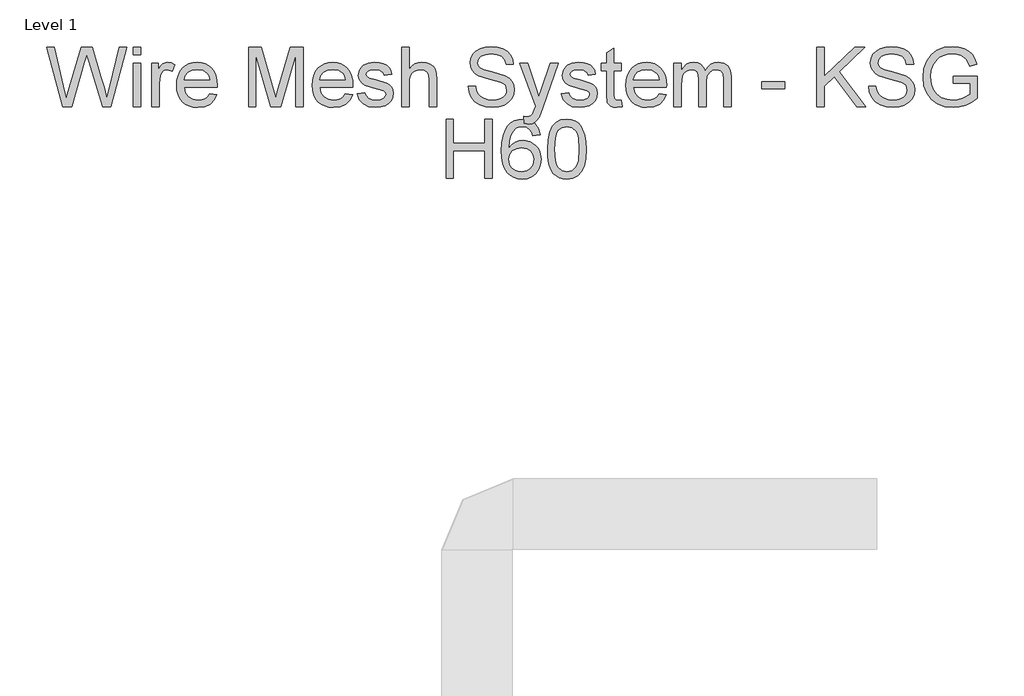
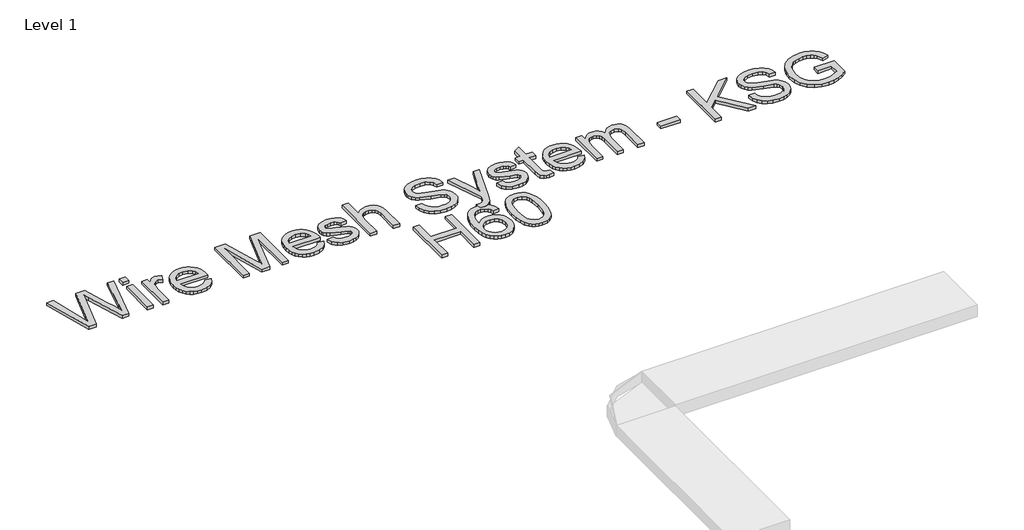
# One storey, part 23 of 32: 1 proxy.
"""IFC4 building model written with IfcOpenShell, lengths in millimetres."""

from ifc_helpers import new_model, si_unit, origin, origin_with_axes, place, context, project, spatial, polyline, outline, extrude, element, save

model = new_model("IFC4")

# Units and contexts
model_context = context("Model", 3, world=origin())
ifc_project = project(units=[si_unit("LENGTHUNIT", "METRE", prefix="MILLI")], contexts=[model_context])

# Site, building, storey
site = spatial("IfcSite", under=ifc_project)
building = spatial("IfcBuilding", under=site)
storey = spatial("IfcBuildingStorey", under=building, Name="Level 1", Elevation=0.0)

# Proxy
placement = place(None, origin())
element("IfcBuildingElementProxy", 1, Name="250mm Arial 3", ObjectType="250mm Arial 3", at=placement, inside=storey, context=model_context, shape_type="SweptSolid", body=[
    extrude(outline(polyline([(3806.4057877, 44003.1379564), (3737.9184229, 44254.2787318), (3770.2920385, 44254.2787318), (3810.0232939, 44089.2223433), (3822.2860271, 44038.2706869), (3835.4071516, 44083.3362313), (3885.1938483, 44254.2787318), (3931.853548, 44254.2787318), (3968.0286109, 44130.3638131), (3983.5256399, 44084.3785637), (3994.9453102, 44038.2706869), (4006.8401614, 44087.7508153), (4046.9392988, 44254.2787318), (4079.3129144, 44254.2787318), (4010.764236, 44003.1379564), (3977.2256608, 44003.1379564), (3917.0156409, 44196.8891405), (3908.6156686, 44223.9284672), (3899.1733641, 44191.3709106), (3844.2976332, 44003.1379564), (3806.4057877, 44003.1379564)])), origin_with_axes(), (0.0, 0.0, 1.0), 15.0),
    extrude(outline(polyline([(4106.7814367, 44222.8861348), (4106.7814367, 44254.2787318), (4138.1740336, 44254.2787318), (4138.1740336, 44222.8861348), (4106.7814367, 44222.8861348)])), origin_with_axes(), (0.0, 0.0, 1.0), 15.0),
    extrude(outline(polyline([(4106.7814367, 44003.1379564), (4106.7814367, 44187.5694633), (4138.1740336, 44187.5694633), (4138.1740336, 44003.1379564), (4106.7814367, 44003.1379564)])), origin_with_axes(), (0.0, 0.0, 1.0), 15.0),
    extrude(outline(polyline([(4185.262929, 44003.1379564), (4185.262929, 44187.5694633), (4212.7314513, 44187.5694633), (4212.7314513, 44160.284882), (4222.878863, 44176.1038078), (4232.2291971, 44185.423485), (4251.8495701, 44191.4935379), (4267.4845549, 44189.0716481), (4283.3647944, 44181.8059787), (4272.8801575, 44153.6630061), (4250.8072378, 44160.100941), (4241.4339112, 44158.5527709), (4233.0569316, 44153.9082608), (4221.7445602, 44136.7404343), (4216.6555259, 44100.0748621), (4216.6555259, 44003.1379564), (4185.262929, 44003.1379564)])), origin_with_axes(), (0.0, 0.0, 1.0), 15.0),
    extrude(outline(polyline([(4432.1117478, 44058.075001), (4462.891208, 44054.1509264), (4451.8010987, 44030.9590323), (4434.1044419, 44013.6225933), (4410.1997764, 44002.8160597), (4380.4856411, 43999.2138818), (4361.0070559, 44000.7678), (4343.6514564, 44005.4295547), (4328.4188425, 44013.1991458), (4315.3092143, 44024.0765733), (4304.7670959, 44037.759101), (4297.2370113, 44053.9439928), (4292.7189606, 44072.6312485), (4291.2129436, 44093.8208682), (4292.734289, 44115.7290074), (4297.298325, 44135.0389801), (4304.9050516, 44151.7507861), (4315.554469, 44165.8644256), (4328.6296082, 44177.0771622), (4343.5135006, 44185.0862598), (4360.2061461, 44189.8917184), (4378.7075448, 44191.4935379), (4396.6130513, 44189.8955505), (4412.8056072, 44185.1015883), (4427.2852127, 44177.1116512), (4440.0518675, 44165.9257393), (4450.4732747, 44151.8427566), (4457.9171369, 44135.1616074), (4462.3834543, 44115.8822916), (4463.8722267, 44094.0048092), (4463.6882857, 44085.5435233), (4322.6055406, 44085.5435233), (4328.0394642, 44062.0450609), (4340.6624152, 44044.7699355), (4358.8802381, 44034.1473429), (4381.0987778, 44030.6064787), (4397.8067517, 44032.2466193), (4411.8782381, 44037.1670409), (4423.3132367, 44045.6743121), (4432.1117478, 44058.075001)]), holes=[polyline([(4322.6055406, 44116.9361202), (4432.4796298, 44116.9361202), (4428.2336584, 44133.5214669), (4419.9103283, 44145.3856612), (4401.608199, 44156.4221211), (4378.5849175, 44160.100941), (4357.4240386, 44157.1655493), (4339.9266512, 44148.359374), (4327.7635527, 44134.632777), (4322.6055406, 44116.9361202)])]), origin_with_axes(), (0.0, 0.0, 1.0), 15.0),
    extrude(outline(polyline([(4597.2907636, 44003.1379564), (4597.2907636, 44254.2787318), (4651.3081032, 44254.2787318), (4702.6889552, 44077.2661784), (4713.0509648, 44040.2940379), (4724.2713656, 44080.3318617), (4774.7938263, 44254.2787318), (4828.8111659, 44254.2787318), (4828.8111659, 44003.1379564), (4797.418569, 44003.1379564), (4797.418569, 44222.8861348), (4734.3268068, 44003.1379564), (4691.7751227, 44003.1379564), (4628.6833605, 44222.8861348), (4628.6833605, 44003.1379564), (4597.2907636, 44003.1379564)])), origin_with_axes(), (0.0, 0.0, 1.0), 15.0),
    extrude(outline(polyline([(5008.9507162, 44058.075001), (5039.7301765, 44054.1509264), (5028.6400672, 44030.9590323), (5010.9434104, 44013.6225933), (4987.0387449, 44002.8160597), (4957.3246096, 43999.2138818), (4937.8460243, 44000.7678), (4920.4904248, 44005.4295547), (4905.2578109, 44013.1991458), (4892.1481828, 44024.0765733), (4881.6060643, 44037.759101), (4874.0759797, 44053.9439928), (4869.557929, 44072.6312485), (4868.0519121, 44093.8208682), (4869.5732574, 44115.7290074), (4874.1372934, 44135.0389801), (4881.7440201, 44151.7507861), (4892.3934374, 44165.8644256), (4905.4685767, 44177.0771622), (4920.3524691, 44185.0862598), (4937.0451146, 44189.8917184), (4955.5465133, 44191.4935379), (4973.4520197, 44189.8955505), (4989.6445757, 44185.1015883), (5004.1241811, 44177.1116512), (5016.890836, 44165.9257393), (5027.3122431, 44151.8427566), (5034.7561053, 44135.1616074), (5039.2224227, 44115.8822916), (5040.7111951, 44094.0048092), (5040.5272541, 44085.5435233), (4899.444509, 44085.5435233), (4904.8784326, 44062.0450609), (4917.5013836, 44044.7699355), (4935.7192066, 44034.1473429), (4957.9377462, 44030.6064787), (4974.6457202, 44032.2466193), (4988.7172065, 44037.1670409), (5000.1522052, 44045.6743121), (5008.9507162, 44058.075001)]), holes=[polyline([(4899.444509, 44116.9361202), (5009.3185982, 44116.9361202), (5005.0726269, 44133.5214669), (4996.7492967, 44145.3856612), (4978.4471675, 44156.4221211), (4955.4238859, 44160.100941), (4934.263007, 44157.1655493), (4916.7656196, 44148.359374), (4904.6025211, 44134.632777), (4899.444509, 44116.9361202)])]), origin_with_axes(), (0.0, 0.0, 1.0), 15.0),
    extrude(outline(polyline([(5060.3315682, 44058.075001), (5091.7241651, 44061.9990756), (5096.6752437, 44048.5713828), (5106.2555039, 44038.6998826), (5120.5262597, 44032.6298297), (5139.5488245, 44030.6064787), (5158.3414631, 44032.4612171), (5171.5545581, 44038.0254323), (5179.3720505, 44046.0881793), (5181.9778813, 44055.4385134), (5179.3567221, 44063.4399468), (5171.4932444, 44069.5406565), (5139.1809425, 44078.4924517), (5091.9081061, 44093.851525), (5079.9442771, 44101.5693827), (5071.2760576, 44111.7857723), (5066.0107465, 44123.8492361), (5064.2556428, 44137.1083163), (5069.8965001, 44160.4994798), (5085.2862302, 44178.3724134), (5105.2438285, 44187.6614338), (5132.2524983, 44191.4935379), (5152.6852774, 44189.9530321), (5170.4509121, 44185.3315145), (5184.7369963, 44178.0811735), (5194.7311238, 44168.6541974), (5201.3529997, 44156.3531432), (5205.522329, 44140.4805679), (5174.1297321, 44136.5564933), (5170.1673364, 44146.4356577), (5162.3268514, 44153.8776039), (5150.5316349, 44158.5451067), (5134.7050449, 44160.100941), (5116.6788271, 44158.6140846), (5104.6613486, 44154.1535154), (5097.901517, 44147.7155805), (5095.6482398, 44140.2966269), (5099.3883734, 44131.1608907), (5111.0992836, 44124.2324465), (5138.1386102, 44117.5492569), (5184.2158301, 44102.7726634), (5196.3865928, 44095.7062634), (5205.6142995, 44086.0340326), (5211.4314335, 44073.7253142), (5213.3704782, 44058.7494513), (5211.0942084, 44043.2677507), (5204.2653988, 44028.7057551), (5193.1446327, 44016.2054314), (5177.992493, 44006.9087468), (5159.6903637, 44001.137598), (5139.1196289, 43999.2138818), (5107.4664488, 44002.9233586), (5084.3665252, 44014.0517889), (5068.9461383, 44032.4765455), (5060.3315682, 44058.075001)])), origin_with_axes(), (0.0, 0.0, 1.0), 15.0),
    extrude(outline(polyline([(5248.6871497, 44003.1379564), (5248.6871497, 44254.2787318), (5280.0797467, 44254.2787318), (5280.0797467, 44161.940351), (5291.610548, 44174.8698703), (5304.5592278, 44184.1052412), (5318.9257861, 44189.6464637), (5334.710223, 44191.4935379), (5353.6714741, 44189.4778512), (5369.9655808, 44183.4307909), (5382.7954654, 44173.8275379), (5391.3640502, 44161.1432733), (5396.1925014, 44143.7148638), (5397.8019851, 44119.8791762), (5397.8019851, 44003.1379564), (5366.4093882, 44003.1379564), (5366.4093882, 44116.6295519), (5363.9108563, 44136.2805818), (5356.4152607, 44149.7389315), (5344.3364685, 44157.5104386), (5328.088347, 44160.100941), (5314.8216026, 44158.3535015), (5302.3672642, 44153.1111831), (5292.0512399, 44144.8798235), (5285.1994378, 44134.1652603), (5281.3596694, 44119.9251614), (5280.0797467, 44101.1171944), (5280.0797467, 44003.1379564), (5248.6871497, 44003.1379564)])), origin_with_axes(), (0.0, 0.0, 1.0), 15.0),
    extrude(outline(polyline([(5531.220522, 44089.4675979), (5562.613119, 44089.4675979), (5566.2152968, 44072.0468526), (5572.7298738, 44058.0443442), (5582.8926139, 44046.9312422), (5597.4392812, 44038.1787164), (5615.2202443, 44032.4995381), (5635.085872, 44030.6064787), (5652.5755952, 44032.0396856), (5667.8886833, 44036.3393065), (5680.2970364, 44043.1451234), (5689.0725548, 44052.0969186), (5694.2918806, 44062.3746218), (5696.0316559, 44073.1581628), (5690.8199943, 44092.7478791), (5682.8798746, 44100.4963936), (5669.4828386, 44107.0033064), (5623.7735007, 44118.990128), (5574.5692838, 44134.4718287), (5558.9419632, 44145.0331076), (5547.8671823, 44157.8323354), (5541.268299, 44172.5936004), (5539.0686713, 44189.0409913), (5541.7894652, 44207.4274268), (5549.951847, 44224.5722607), (5563.3412187, 44239.1035995), (5581.7429827, 44249.64955), (5603.8312308, 44256.0644923), (5628.2800551, 44258.2028064), (5654.7675588, 44255.9648576), (5677.9441245, 44249.2510112), (5696.9820177, 44238.1992229), (5711.053504, 44222.9474485), (5719.959314, 44204.4460498), (5723.5001782, 44183.6453887), (5692.1075813, 44183.6453887), (5686.3440967, 44202.3767136), (5674.3266182, 44215.8963769), (5655.549308, 44224.0817513), (5629.5063284, 44226.8102095), (5602.8502122, 44224.1124082), (5584.5634113, 44216.0190043), (5573.986804, 44204.1088247), (5570.4612682, 44189.9606963), (5572.9598001, 44177.8972325), (5580.4553957, 44168.1943449), (5598.1750452, 44159.5184612), (5631.7136204, 44150.6586365), (5687.2638017, 44134.9010243), (5705.1597279, 44123.5120109), (5717.6447231, 44109.455853), (5724.9793704, 44092.8858348), (5727.4242528, 44073.9552405), (5724.6114884, 44054.6031147), (5716.1731951, 44036.4006201), (5702.4542624, 44020.7349785), (5683.7995795, 44008.9934115), (5661.366442, 44001.6587642), (5636.3121453, 43999.2138818), (5605.5556777, 44001.8503694), (5580.2407979, 44009.7598323), (5560.076266, 44022.9729273), (5544.7708422, 44041.5203112), (5534.9453272, 44064.1143971), (5531.220522, 44089.4675979)])), origin_with_axes(), (0.0, 0.0, 1.0), 15.0),
    extrude(outline(polyline([(5770.5890736, 43932.5046133), (5766.664999, 43962.7322506), (5782.6065521, 43959.9731356), (5797.5057729, 43963.4373577), (5806.6415091, 43973.0942601), (5815.2254223, 43996.2095122), (5817.677969, 44003.8124067), (5750.9687005, 44187.5694633), (5784.0780801, 44187.5694633), (5819.4560653, 44085.1756413), (5831.7801121, 44044.2181125), (5844.1041589, 44080.3931754), (5880.4631628, 44187.5694633), (5913.3272877, 44187.5694633), (5849.1318795, 43998.7233725), (5832.4545624, 43957.7658437), (5823.9166345, 43944.6907044), (5814.2444037, 43935.6316103), (5803.0086744, 43930.3433066), (5789.780251, 43928.5805387), (5770.5890736, 43932.5046133)])), origin_with_axes(), (0.0, 0.0, 1.0), 15.0),
    extrude(outline(polyline([(5927.5520582, 44058.075001), (5958.9446551, 44061.9990756), (5963.8957336, 44048.5713828), (5973.4759939, 44038.6998826), (5987.7467496, 44032.6298297), (6006.7693145, 44030.6064787), (6025.5619531, 44032.4612171), (6038.7750481, 44038.0254323), (6046.5925405, 44046.0881793), (6049.1983713, 44055.4385134), (6046.577212, 44063.4399468), (6038.7137344, 44069.5406565), (6006.4014325, 44078.4924517), (5959.1285961, 44093.851525), (5947.164767, 44101.5693827), (5938.4965475, 44111.7857723), (5933.2312365, 44123.8492361), (5931.4761328, 44137.1083163), (5937.1169901, 44160.4994798), (5952.5067202, 44178.3724134), (5972.4643184, 44187.6614338), (5999.4729882, 44191.4935379), (6019.9057674, 44189.9530321), (6037.6714021, 44185.3315145), (6051.9574862, 44178.0811735), (6061.9516138, 44168.6541974), (6068.5734897, 44156.3531432), (6072.7428189, 44140.4805679), (6041.350222, 44136.5564933), (6037.3878264, 44146.4356577), (6029.5473413, 44153.8776039), (6017.7521249, 44158.5451067), (6001.9255349, 44160.100941), (5983.8993171, 44158.6140846), (5971.8818386, 44154.1535154), (5965.1220069, 44147.7155805), (5962.8687297, 44140.2966269), (5966.6088633, 44131.1608907), (5978.3197735, 44124.2324465), (6005.3591002, 44117.5492569), (6051.4363201, 44102.7726634), (6063.6070827, 44095.7062634), (6072.8347894, 44086.0340326), (6078.6519235, 44073.7253142), (6080.5909682, 44058.7494513), (6078.3146983, 44043.2677507), (6071.4858888, 44028.7057551), (6060.3651226, 44016.2054314), (6045.212983, 44006.9087468), (6026.9108537, 44001.137598), (6006.3401188, 43999.2138818), (5974.6869388, 44002.9233586), (5951.5870152, 44014.0517889), (5936.1666282, 44032.4765455), (5927.5520582, 44058.075001)])), origin_with_axes(), (0.0, 0.0, 1.0), 15.0),
    extrude(outline(polyline([(6182.6169082, 44029.3188917), (6186.5409828, 44002.2182514), (6163.0578488, 43999.2138818), (6147.9900154, 44000.5167972), (6136.7542861, 44004.4255434), (6123.6331616, 44018.0984909), (6119.8317143, 44053.7217307), (6119.8317143, 44156.1768664), (6096.2872666, 44156.1768664), (6096.2872666, 44187.5694633), (6119.8317143, 44187.5694633), (6119.8317143, 44232.3897531), (6151.2243112, 44250.8451665), (6151.2243112, 44187.5694633), (6182.6169082, 44187.5694633), (6182.6169082, 44156.1768664), (6151.2243112, 44156.1768664), (6151.2243112, 44054.6414357), (6152.8797802, 44038.4546279), (6158.244726, 44032.7218002), (6168.9439607, 44030.6064787), (6182.6169082, 44029.3188917)])), origin_with_axes(), (0.0, 0.0, 1.0), 15.0),
    extrude(outline(polyline([(6343.1360854, 44058.075001), (6373.9155457, 44054.1509264), (6362.8254363, 44030.9590323), (6345.1287795, 44013.6225933), (6321.2241141, 44002.8160597), (6291.5099787, 43999.2138818), (6272.0313935, 44000.7678), (6254.675794, 44005.4295547), (6239.4431801, 44013.1991458), (6226.3335519, 44024.0765733), (6215.7914335, 44037.759101), (6208.2613489, 44053.9439928), (6203.7432982, 44072.6312485), (6202.2372812, 44093.8208682), (6203.7586266, 44115.7290074), (6208.3226626, 44135.0389801), (6215.9293893, 44151.7507861), (6226.5788066, 44165.8644256), (6239.6539458, 44177.0771622), (6254.5378382, 44185.0862598), (6271.2304838, 44189.8917184), (6289.7318824, 44191.4935379), (6307.6373889, 44189.8955505), (6323.8299449, 44185.1015883), (6338.3095503, 44177.1116512), (6351.0762051, 44165.9257393), (6361.4976123, 44151.8427566), (6368.9414745, 44135.1616074), (6373.4077919, 44115.8822916), (6374.8965643, 44094.0048092), (6374.7126233, 44085.5435233), (6233.6298782, 44085.5435233), (6239.0638018, 44062.0450609), (6251.6867528, 44044.7699355), (6269.9045757, 44034.1473429), (6292.1231154, 44030.6064787), (6308.8310893, 44032.2466193), (6322.9025757, 44037.1670409), (6334.3375743, 44045.6743121), (6343.1360854, 44058.075001)]), holes=[polyline([(6233.6298782, 44116.9361202), (6343.5039674, 44116.9361202), (6339.257996, 44133.5214669), (6330.9346659, 44145.3856612), (6312.6325366, 44156.4221211), (6289.6092551, 44160.100941), (6268.4483762, 44157.1655493), (6250.9509888, 44148.359374), (6238.7878903, 44134.632777), (6233.6298782, 44116.9361202)])]), origin_with_axes(), (0.0, 0.0, 1.0), 15.0),
    extrude(outline(polyline([(6406.2891612, 44003.1379564), (6406.2891612, 44187.5694633), (6437.6817582, 44187.5694633), (6437.6817582, 44157.2191987), (6447.1240627, 44171.1603935), (6459.2641685, 44182.0818902), (6473.6882084, 44189.140626), (6489.9823151, 44191.4935379), (6507.4413815, 44189.0946407), (6521.4362257, 44181.8979492), (6531.8902058, 44170.3786442), (6538.7266795, 44155.0119067), (6550.1693424, 44170.9726204), (6563.221489, 44182.3731301), (6577.8831194, 44189.213436), (6594.1542334, 44191.4935379), (6617.7523306, 44187.6997549), (6635.2037327, 44176.3184056), (6645.9872737, 44157.0429219), (6649.5817874, 44129.5667354), (6649.5817874, 44003.1379564), (6618.1891905, 44003.1379564), (6618.1891905, 44116.0777289), (6615.2767913, 44142.2893211), (6604.7308408, 44155.1958477), (6586.7965935, 44160.100941), (6569.7897155, 44156.9586156), (6555.9251628, 44147.5316395), (6546.7051203, 44131.1762191), (6543.6317728, 44107.248561), (6543.6317728, 44003.1379564), (6512.2391758, 44003.1379564), (6512.2391758, 44119.5726079), (6510.4227585, 44137.3229141), (6504.9735064, 44149.9841861), (6495.3855819, 44157.5717523), (6481.1531473, 44160.100941), (6469.0590267, 44158.4148152), (6457.9152679, 44153.3564378), (6448.718218, 44145.048436), (6442.4642241, 44133.6134374), (6437.6817582, 44096.1507875), (6437.6817582, 44003.1379564), (6406.2891612, 44003.1379564)])), origin_with_axes(), (0.0, 0.0, 1.0), 15.0),
    extrude(outline(polyline([(6779.0762497, 44077.6953741), (6779.0762497, 44109.087971), (6877.1781151, 44109.087971), (6877.1781151, 44077.6953741), (6779.0762497, 44077.6953741)])), origin_with_axes(), (0.0, 0.0, 1.0), 15.0),
    extrude(outline(polyline([(7014.5207266, 44003.1379564), (7014.5207266, 44254.2787318), (7045.9133235, 44254.2787318), (7045.9133235, 44131.3448317), (7174.6720218, 44254.2787318), (7218.5726066, 44254.2787318), (7110.4766137, 44151.0265185), (7222.4966812, 44003.1379564), (7184.1143264, 44003.1379564), (7088.219753, 44129.8119901), (7045.9133235, 44089.4675979), (7045.9133235, 44003.1379564), (7014.5207266, 44003.1379564)])), origin_with_axes(), (0.0, 0.0, 1.0), 15.0),
    extrude(outline(polyline([(7234.268905, 44089.4675979), (7265.661502, 44089.4675979), (7269.2636798, 44072.0468526), (7275.7782568, 44058.0443442), (7285.940997, 44046.9312422), (7300.4876642, 44038.1787164), (7318.2686273, 44032.4995381), (7338.134255, 44030.6064787), (7355.6239782, 44032.0396856), (7370.9370663, 44036.3393065), (7383.3454194, 44043.1451234), (7392.1209378, 44052.0969186), (7397.3402636, 44062.3746218), (7399.0800389, 44073.1581628), (7393.8683773, 44092.7478791), (7385.9282576, 44100.4963936), (7372.5312216, 44107.0033064), (7326.8218837, 44118.990128), (7277.6176668, 44134.4718287), (7261.9903462, 44145.0331076), (7250.9155653, 44157.8323354), (7244.316682, 44172.5936004), (7242.1170543, 44189.0409913), (7244.8378482, 44207.4274268), (7253.00023, 44224.5722607), (7266.3896018, 44239.1035995), (7284.7913657, 44249.64955), (7306.8796138, 44256.0644923), (7331.3284381, 44258.2028064), (7357.8159418, 44255.9648576), (7380.9925075, 44249.2510112), (7400.0304007, 44238.1992229), (7414.101887, 44222.9474485), (7423.007697, 44204.4460498), (7426.5485612, 44183.6453887), (7395.1559643, 44183.6453887), (7389.3924797, 44202.3767136), (7377.3750012, 44215.8963769), (7358.597691, 44224.0817513), (7332.5547114, 44226.8102095), (7305.8985952, 44224.1124082), (7287.6117943, 44216.0190043), (7277.035187, 44204.1088247), (7273.5096512, 44189.9606963), (7276.0081831, 44177.8972325), (7283.5037787, 44168.1943449), (7301.2234282, 44159.5184612), (7334.7620034, 44150.6586365), (7390.3121847, 44134.9010243), (7408.2081109, 44123.5120109), (7420.6931061, 44109.455853), (7428.0277534, 44092.8858348), (7430.4726358, 44073.9552405), (7427.6598714, 44054.6031147), (7419.2215781, 44036.4006201), (7405.5026454, 44020.7349785), (7386.8479625, 44008.9934115), (7364.414825, 44001.6587642), (7339.3605283, 43999.2138818), (7308.6040607, 44001.8503694), (7283.2891809, 44009.7598323), (7263.124649, 44022.9729273), (7247.8192252, 44041.5203112), (7237.9937102, 44064.1143971), (7234.268905, 44089.4675979)])), origin_with_axes(), (0.0, 0.0, 1.0), 15.0),
    extrude(outline(polyline([(7595.2837696, 44101.2398218), (7595.2837696, 44132.6324187), (7697.3097096, 44132.6324187), (7697.3097096, 44038.7611963), (7672.515996, 44021.5167277), (7646.9405331, 44009.1466957), (7620.6446347, 44001.6970852), (7593.6896143, 43999.2138818), (7558.4725775, 44003.160949), (7526.6431207, 44015.0021507), (7500.2016023, 44034.3236197), (7481.1483806, 44060.7114886), (7469.6290757, 44092.3646686), (7465.7893073, 44127.4820708), (7469.6137473, 44162.8523918), (7481.087067, 44195.7548377), (7499.7340856, 44223.3536516), (7525.0796222, 44242.8130763), (7555.951053, 44254.3553739), (7591.175754, 44258.2028064), (7617.0347926, 44255.9725218), (7640.2880004, 44249.281668), (7659.8700524, 44238.6130901), (7674.7156238, 44224.4496333), (7685.6984342, 44206.109183), (7693.6922034, 44182.9096247), (7664.7521531, 44174.7549071), (7650.4354121, 44203.7869279), (7640.0427457, 44213.1985756), (7625.9712594, 44220.5255587), (7609.1943076, 44225.2390468), (7590.6852447, 44226.8102095), (7569.018528, 44225.1164194), (7550.4941367, 44220.0350494), (7535.1810487, 44212.2022286), (7523.1482418, 44202.2540863), (7506.9920908, 44178.0658451), (7499.6344509, 44154.3681132), (7497.1819043, 44128.7696577), (7500.1326244, 44098.7489541), (7508.9847849, 44074.047211), (7523.4701385, 44054.8407051), (7543.3204378, 44041.3057134), (7566.550653, 44033.2812874), (7591.175754, 44030.6064787), (7612.9191128, 44032.6221655), (7634.125977, 44038.6692258), (7665.9171127, 44055.867709), (7665.9171127, 44101.2398218), (7595.2837696, 44101.2398218)])), origin_with_axes(), (0.0, 0.0, 1.0), 15.0),
    extrude(outline(polyline([(5437.0427313, 43698.2009118), (5437.0427313, 43949.3416872), (5468.4353282, 43949.3416872), (5468.4353282, 43847.3157472), (5601.8538651, 43847.3157472), (5601.8538651, 43949.3416872), (5633.246462, 43949.3416872), (5633.246462, 43698.2009118), (5601.8538651, 43698.2009118), (5601.8538651, 43815.9231502), (5468.4353282, 43815.9231502), (5468.4353282, 43698.2009118), (5437.0427313, 43698.2009118)])), origin_with_axes(), (0.0, 0.0, 1.0), 15.0),
    extrude(outline(polyline([(5837.298342, 43882.6324187), (5805.9057451, 43878.7083441), (5800.8473677, 43894.2666868), (5794.0108939, 43904.8892794), (5779.770795, 43914.6841375), (5762.5569833, 43917.9490902), (5747.9643309, 43916.0483666), (5734.2300697, 43910.3461957), (5722.4348532, 43898.3363814), (5712.8009435, 43881.8046842), (5706.2940307, 43858.4211849), (5703.8798051, 43825.8559641), (5716.4720992, 43840.5482513), (5731.5629252, 43850.9025966), (5748.3092202, 43857.0416274), (5765.8679213, 43859.087971), (5794.8692853, 43853.493099), (5819.2108106, 43836.708483), (5828.8408882, 43824.7025008), (5835.7195151, 43811.0640422), (5841.2224166, 43778.8896961), (5838.6319143, 43756.4105733), (5830.8604071, 43735.5715911), (5818.5516887, 43717.8979269), (5802.3495525, 43704.9147582), (5782.9897625, 43696.9363174), (5761.2080827, 43694.2768372), (5742.4940022, 43696.0396051), (5725.592507, 43701.3279087), (5710.5035971, 43710.1417482), (5697.2272724, 43722.4811235), (5686.4034943, 43738.8672007), (5678.6722242, 43759.821146), (5674.0334622, 43785.3429594), (5672.4872082, 43815.4326409), (5674.2039908, 43849.1666534), (5679.3543388, 43877.9572517), (5687.938252, 43901.8044356), (5699.9557305, 43920.7082052), (5712.9810524, 43933.2353536), (5728.0833747, 43942.1833167), (5745.2626975, 43947.5520945), (5764.5190207, 43949.3416872), (5792.064185, 43944.9117748), (5814.1217763, 43931.6220377), (5829.5728201, 43910.5148082), (5837.298342, 43882.6324187)]), holes=[polyline([(5703.8798051, 43779.3802054), (5705.6962225, 43765.4696674), (5711.1454745, 43752.1875946), (5719.6067604, 43740.7679243), (5730.4592793, 43732.4445942), (5743.5574111, 43727.3632241), (5758.7555361, 43725.6694341), (5779.4718909, 43729.1796415), (5795.7583334, 43739.7102636), (5806.3119481, 43756.2649534), (5809.8298197, 43777.8473637), (5806.3579334, 43798.5637186), (5795.9422744, 43814.3596518), (5779.3799204, 43824.3614435), (5757.4679491, 43827.6953741), (5736.7822511, 43824.3614435), (5719.4841331, 43814.3596518), (5707.7808871, 43798.946929), (5703.8798051, 43779.3802054)])]), origin_with_axes(), (0.0, 0.0, 1.0), 15.0),
    extrude(outline(polyline([(5868.690939, 43821.7479485), (5870.9978656, 43861.9467207), (5877.9186457, 43894.0061037), (5889.3843012, 43918.4166069), (5905.3258543, 43935.6687397), (5925.8582682, 43945.9234503), (5951.0965059, 43949.3416872), (5970.4409675, 43947.3183362), (5987.7620781, 43941.2482833), (6002.2474316, 43931.3691189), (6013.0846221, 43917.9184334), (6027.7999019, 43880.7623519), (6032.0765301, 43855.0489333), (6033.5020728, 43821.7479485), (6031.2181387, 43781.7791026), (6024.3663366, 43749.7963616), (6012.9696589, 43725.3628658), (5997.0510984, 43708.0417552), (5976.4726993, 43697.7180667), (5951.0965059, 43694.2768372), (5933.8060521, 43695.7713578), (5918.4776356, 43700.2549196), (5905.1112565, 43707.7275226), (5893.7069146, 43718.1891669), (5882.7624253, 43737.1006007), (5874.9449329, 43760.6642089), (5870.2544374, 43788.8799915), (5868.690939, 43821.7479485)]), holes=[polyline([(5900.0835359, 43821.8092622), (5903.7623558, 43772.4287685), (5908.3608808, 43755.5387696), (5914.7988157, 43743.848936), (5931.2308781, 43730.2143096), (5951.0965059, 43725.6694341), (5970.9621336, 43730.229638), (5987.3941961, 43743.9102497), (5993.832131, 43755.6192438), (5998.4306559, 43772.5054106), (6002.1094759, 43821.8092622), (5998.5532832, 43870.0784456), (5994.1080425, 43886.912879), (5987.8847054, 43898.8805402), (5971.4832998, 43913.1819527), (5950.7286239, 43917.9490902), (5931.077594, 43913.7491041), (5915.289325, 43901.1491458), (5908.6367923, 43888.1199918), (5903.8849832, 43870.5536265), (5900.0835359, 43821.8092622)])]), origin_with_axes(), (0.0, 0.0, 1.0), 15.0),
])

save(model, "model.ifc")
